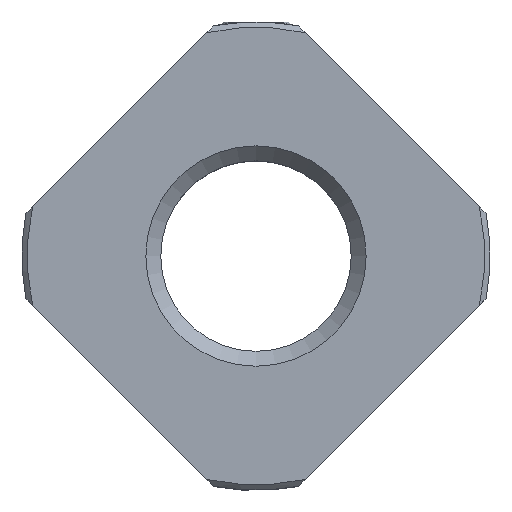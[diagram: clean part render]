
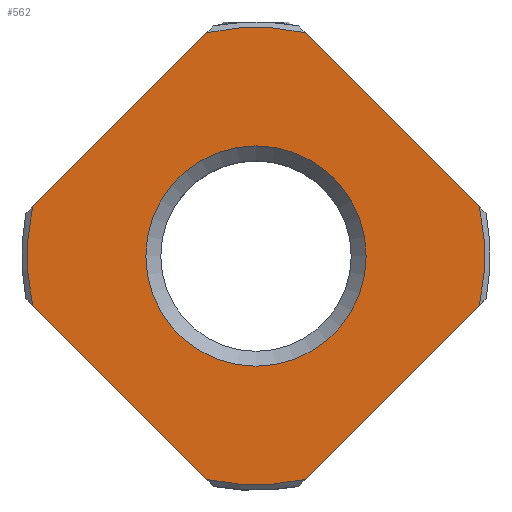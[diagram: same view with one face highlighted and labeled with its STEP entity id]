
A CAD part, top view. The second image highlights one B-rep face of the part: STEP entity #562.
In plain terms, the highlighted planar face has unit normal (0, 0, 1).
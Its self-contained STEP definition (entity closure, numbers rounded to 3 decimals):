
#32=PLANE('',#617);
#50=LINE('',#878,#84);
#51=LINE('',#882,#85);
#52=LINE('',#886,#86);
#53=LINE('',#890,#87);
#84=VECTOR('',#697,1000.);
#85=VECTOR('',#700,1000.);
#86=VECTOR('',#703,1000.);
#87=VECTOR('',#706,1000.);
#146=ORIENTED_EDGE('',*,*,#300,.F.);
#147=ORIENTED_EDGE('',*,*,#301,.T.);
#148=ORIENTED_EDGE('',*,*,#302,.F.);
#149=ORIENTED_EDGE('',*,*,#303,.T.);
#150=ORIENTED_EDGE('',*,*,#304,.F.);
#151=ORIENTED_EDGE('',*,*,#305,.T.);
#152=ORIENTED_EDGE('',*,*,#306,.F.);
#153=ORIENTED_EDGE('',*,*,#307,.T.);
#154=ORIENTED_EDGE('',*,*,#308,.T.);
#300=EDGE_CURVE('',#378,#379,#430,.T.);
#301=EDGE_CURVE('',#378,#380,#50,.T.);
#302=EDGE_CURVE('',#381,#380,#431,.T.);
#303=EDGE_CURVE('',#381,#382,#51,.T.);
#304=EDGE_CURVE('',#383,#382,#432,.T.);
#305=EDGE_CURVE('',#383,#384,#52,.T.);
#306=EDGE_CURVE('',#385,#384,#433,.T.);
#307=EDGE_CURVE('',#385,#379,#53,.T.);
#308=EDGE_CURVE('',#386,#386,#434,.T.);
#378=VERTEX_POINT('',#876);
#379=VERTEX_POINT('',#877);
#380=VERTEX_POINT('',#879);
#381=VERTEX_POINT('',#881);
#382=VERTEX_POINT('',#883);
#383=VERTEX_POINT('',#885);
#384=VERTEX_POINT('',#887);
#385=VERTEX_POINT('',#889);
#386=VERTEX_POINT('',#892);
#430=CIRCLE('',#618,8.305);
#431=CIRCLE('',#619,8.305);
#432=CIRCLE('',#620,8.305);
#433=CIRCLE('',#621,8.305);
#434=CIRCLE('',#622,4.);
#459=EDGE_LOOP('',(#146,#147,#148,#149,#150,#151,#152,#153));
#460=EDGE_LOOP('',(#154));
#509=FACE_BOUND('',#459,.T.);
#510=FACE_BOUND('',#460,.T.);
#562=ADVANCED_FACE('',(#509,#510),#32,.F.);
#617=AXIS2_PLACEMENT_3D('',#874,#693,#694);
#618=AXIS2_PLACEMENT_3D('',#875,#695,#696);
#619=AXIS2_PLACEMENT_3D('',#880,#698,#699);
#620=AXIS2_PLACEMENT_3D('',#884,#701,#702);
#621=AXIS2_PLACEMENT_3D('',#888,#704,#705);
#622=AXIS2_PLACEMENT_3D('',#891,#707,#708);
#693=DIRECTION('',(0.,0.,-1.));
#694=DIRECTION('',(-1.,0.,0.));
#695=DIRECTION('',(0.,0.,-1.));
#696=DIRECTION('',(-1.,0.,0.));
#697=DIRECTION('',(-0.707,-0.707,0.));
#698=DIRECTION('',(0.,0.,-1.));
#699=DIRECTION('',(-1.,0.,0.));
#700=DIRECTION('',(0.707,-0.707,0.));
#701=DIRECTION('',(0.,0.,-1.));
#702=DIRECTION('',(-1.,0.,0.));
#703=DIRECTION('',(0.707,0.707,0.));
#704=DIRECTION('',(0.,0.,-1.));
#705=DIRECTION('',(-1.,0.,0.));
#706=DIRECTION('',(-0.707,0.707,0.));
#707=DIRECTION('',(0.,0.,-1.));
#708=DIRECTION('',(-1.,0.,0.));
#874=CARTESIAN_POINT('',(0.,0.,6.5));
#875=CARTESIAN_POINT('',(0.,0.,6.5));
#876=CARTESIAN_POINT('',(-1.79,8.11,6.5));
#877=CARTESIAN_POINT('',(1.79,8.11,6.5));
#878=CARTESIAN_POINT('',(0.,9.899,6.5));
#879=CARTESIAN_POINT('',(-8.11,1.79,6.5));
#880=CARTESIAN_POINT('',(0.,0.,6.5));
#881=CARTESIAN_POINT('',(-8.11,-1.79,6.5));
#882=CARTESIAN_POINT('',(-9.899,0.,6.5));
#883=CARTESIAN_POINT('',(-1.79,-8.11,6.5));
#884=CARTESIAN_POINT('',(0.,0.,6.5));
#885=CARTESIAN_POINT('',(1.79,-8.11,6.5));
#886=CARTESIAN_POINT('',(0.,-9.899,6.5));
#887=CARTESIAN_POINT('',(8.11,-1.79,6.5));
#888=CARTESIAN_POINT('',(0.,0.,6.5));
#889=CARTESIAN_POINT('',(8.11,1.79,6.5));
#890=CARTESIAN_POINT('',(9.899,0.,6.5));
#891=CARTESIAN_POINT('',(0.,0.,6.5));
#892=CARTESIAN_POINT('',(-4.,0.,6.5));
